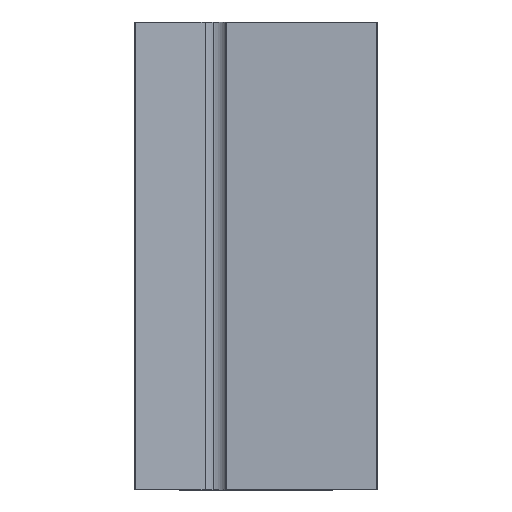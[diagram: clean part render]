
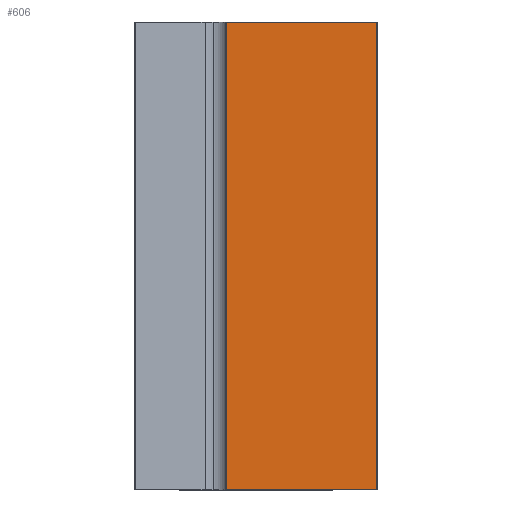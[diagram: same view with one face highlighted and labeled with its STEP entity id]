
A CAD part, top view. The second image highlights one B-rep face of the part: STEP entity #606.
In plain terms, the highlighted planar face has unit normal (0, 0, 1).
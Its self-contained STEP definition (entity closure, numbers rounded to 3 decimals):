
#27 = CARTESIAN_POINT ( 'NONE',  ( -126.5, 989., 84. ) ) ;
#44 = VECTOR ( 'NONE', #277, 1000. ) ;
#64 = LINE ( 'NONE', #1078, #703 ) ;
#98 = FACE_OUTER_BOUND ( 'NONE', #256, .T. ) ;
#113 = CARTESIAN_POINT ( 'NONE',  ( 0., -989., 84. ) ) ;
#125 = AXIS2_PLACEMENT_3D ( 'NONE', #1128, #951, #969 ) ;
#132 = ORIENTED_EDGE ( 'NONE', *, *, #400, .T. ) ;
#239 = EDGE_CURVE ( 'NONE', #388, #1075, #64, .T. ) ;
#242 = ORIENTED_EDGE ( 'NONE', *, *, #898, .T. ) ;
#250 = CARTESIAN_POINT ( 'NONE',  ( 511.5, -989., 84. ) ) ;
#256 = EDGE_LOOP ( 'NONE', ( #324, #132, #242, #1111 ) ) ;
#277 = DIRECTION ( 'NONE',  ( 1., 0., 0. ) ) ;
#310 = LINE ( 'NONE', #510, #923 ) ;
#324 = ORIENTED_EDGE ( 'NONE', *, *, #546, .T. ) ;
#388 = VERTEX_POINT ( 'NONE', #250 ) ;
#399 = CARTESIAN_POINT ( 'NONE',  ( 511.5, 989., 84. ) ) ;
#400 = EDGE_CURVE ( 'NONE', #653, #669, #310, .T. ) ;
#499 = DIRECTION ( 'NONE',  ( 0., 1., 0. ) ) ;
#510 = CARTESIAN_POINT ( 'NONE',  ( -126.5, 990., 84. ) ) ;
#546 = EDGE_CURVE ( 'NONE', #1075, #653, #869, .T. ) ;
#606 = ADVANCED_FACE ( 'NONE', ( #98 ), #882, .F. ) ;
#653 = VERTEX_POINT ( 'NONE', #27 ) ;
#669 = VERTEX_POINT ( 'NONE', #828 ) ;
#703 = VECTOR ( 'NONE', #499, 1000. ) ;
#763 = DIRECTION ( 'NONE',  ( 0., -1., 0. ) ) ;
#798 = CARTESIAN_POINT ( 'NONE',  ( -127.5, 989., 84. ) ) ;
#828 = CARTESIAN_POINT ( 'NONE',  ( -126.5, -989., 84. ) ) ;
#869 = LINE ( 'NONE', #798, #1016 ) ;
#882 = PLANE ( 'NONE',  #125 ) ;
#889 = LINE ( 'NONE', #113, #44 ) ;
#898 = EDGE_CURVE ( 'NONE', #669, #388, #889, .T. ) ;
#923 = VECTOR ( 'NONE', #763, 1000. ) ;
#951 = DIRECTION ( 'NONE',  ( 0., 0., -1. ) ) ;
#956 = DIRECTION ( 'NONE',  ( -1., 0., 0. ) ) ;
#969 = DIRECTION ( 'NONE',  ( -1., 0., 0. ) ) ;
#1016 = VECTOR ( 'NONE', #956, 1000. ) ;
#1075 = VERTEX_POINT ( 'NONE', #399 ) ;
#1078 = CARTESIAN_POINT ( 'NONE',  ( 511.5, 990., 84. ) ) ;
#1111 = ORIENTED_EDGE ( 'NONE', *, *, #239, .T. ) ;
#1128 = CARTESIAN_POINT ( 'NONE',  ( 0., 990., 84. ) ) ;
